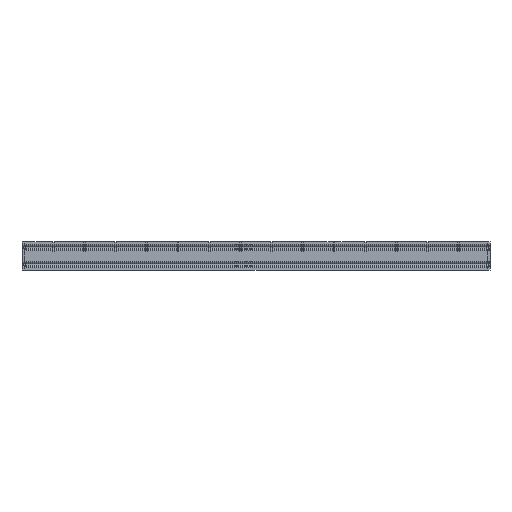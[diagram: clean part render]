
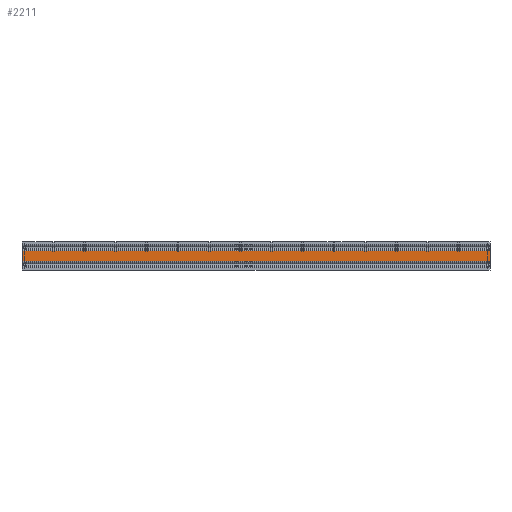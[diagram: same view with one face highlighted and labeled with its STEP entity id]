
A CAD part, front view. The second image highlights one B-rep face of the part: STEP entity #2211.
In plain terms, the highlighted planar face has unit normal (0, -1, 0) as drawn and (0, 0, 1) by its records, which use the part's own axes.
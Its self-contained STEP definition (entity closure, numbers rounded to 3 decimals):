
#285=PLANE('',#2421);
#533=LINE('',#3646,#789);
#534=LINE('',#3650,#790);
#535=LINE('',#3652,#791);
#536=LINE('',#3654,#792);
#789=VECTOR('',#2994,1000.);
#790=VECTOR('',#2999,1000.);
#791=VECTOR('',#3000,1000.);
#792=VECTOR('',#3001,1000.);
#1314=ORIENTED_EDGE('',*,*,#1650,.T.);
#1315=ORIENTED_EDGE('',*,*,#1651,.F.);
#1316=ORIENTED_EDGE('',*,*,#1652,.F.);
#1317=ORIENTED_EDGE('',*,*,#1648,.T.);
#1648=EDGE_CURVE('',#1849,#1848,#533,.T.);
#1650=EDGE_CURVE('',#1848,#1850,#534,.T.);
#1651=EDGE_CURVE('',#1851,#1850,#535,.T.);
#1652=EDGE_CURVE('',#1849,#1851,#536,.T.);
#1848=VERTEX_POINT('',#3645);
#1849=VERTEX_POINT('',#3647);
#1850=VERTEX_POINT('',#3651);
#1851=VERTEX_POINT('',#3653);
#1987=EDGE_LOOP('',(#1314,#1315,#1316,#1317));
#2091=FACE_BOUND('',#1987,.T.);
#2211=ADVANCED_FACE('',(#2091),#285,.F.);
#2421=AXIS2_PLACEMENT_3D('',#3649,#2997,#2998);
#2994=DIRECTION('',(-1.,0.,0.));
#2997=DIRECTION('',(0.,0.,-1.));
#2998=DIRECTION('',(-1.,0.,0.));
#2999=DIRECTION('',(0.,-1.,0.));
#3000=DIRECTION('',(-1.,0.,0.));
#3001=DIRECTION('',(0.,-1.,0.));
#3645=CARTESIAN_POINT('',(-250.,-9.527,500.));
#3646=CARTESIAN_POINT('',(250.,-9.527,500.));
#3647=CARTESIAN_POINT('',(250.,-9.527,500.));
#3649=CARTESIAN_POINT('',(250.,-9.527,500.));
#3650=CARTESIAN_POINT('',(-250.,-9.527,500.));
#3651=CARTESIAN_POINT('',(-250.,-20.473,500.));
#3652=CARTESIAN_POINT('',(250.,-20.473,500.));
#3653=CARTESIAN_POINT('',(250.,-20.473,500.));
#3654=CARTESIAN_POINT('',(250.,-9.527,500.));
